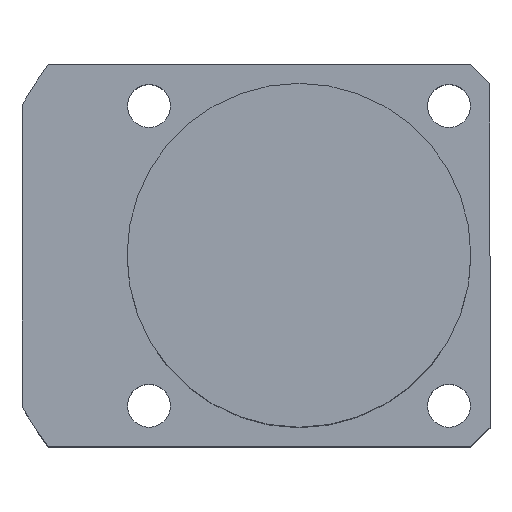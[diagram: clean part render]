
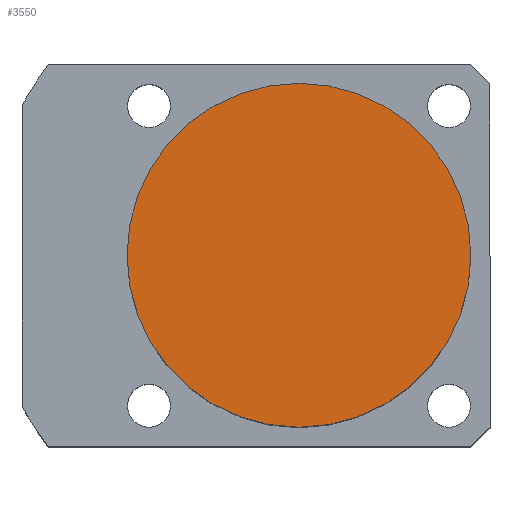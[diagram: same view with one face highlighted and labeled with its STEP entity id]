
A CAD part, top view. The second image highlights one B-rep face of the part: STEP entity #3550.
In plain terms, the highlighted planar face has unit normal (0, 0, 1).
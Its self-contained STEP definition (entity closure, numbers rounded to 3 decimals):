
#48 = CARTESIAN_POINT ( 'NONE',  ( 0., 0., 43.5 ) ) ;
#156 = CARTESIAN_POINT ( 'NONE',  ( 0., 0., 43.5 ) ) ;
#372 = DIRECTION ( 'NONE',  ( 1., 0., 0. ) ) ;
#408 = AXIS2_PLACEMENT_3D ( 'NONE', #156, #467, #2649 ) ;
#467 = DIRECTION ( 'NONE',  ( 0., 0., 1. ) ) ;
#592 = ORIENTED_EDGE ( 'NONE', *, *, #4031, .T. ) ;
#697 = CIRCLE ( 'NONE', #1351, 18. ) ;
#761 = PLANE ( 'NONE',  #408 ) ;
#1106 = FACE_OUTER_BOUND ( 'NONE', #1134, .T. ) ;
#1134 = EDGE_LOOP ( 'NONE', ( #592, #1235 ) ) ;
#1203 = CARTESIAN_POINT ( 'NONE',  ( 0., 0., 43.5 ) ) ;
#1235 = ORIENTED_EDGE ( 'NONE', *, *, #2452, .T. ) ;
#1351 = AXIS2_PLACEMENT_3D ( 'NONE', #1203, #3381, #1518 ) ;
#1387 = VERTEX_POINT ( 'NONE', #2827 ) ;
#1518 = DIRECTION ( 'NONE',  ( 1., 0., 0. ) ) ;
#2123 = VERTEX_POINT ( 'NONE', #3690 ) ;
#2224 = DIRECTION ( 'NONE',  ( 0., 0., 1. ) ) ;
#2452 = EDGE_CURVE ( 'NONE', #2123, #1387, #3887, .T. ) ;
#2649 = DIRECTION ( 'NONE',  ( 1., 0., 0. ) ) ;
#2827 = CARTESIAN_POINT ( 'NONE',  ( -18., 0., 43.5 ) ) ;
#3381 = DIRECTION ( 'NONE',  ( 0., 0., 1. ) ) ;
#3550 = ADVANCED_FACE ( 'NONE', ( #1106 ), #761, .T. ) ;
#3690 = CARTESIAN_POINT ( 'NONE',  ( 18., 0., 43.5 ) ) ;
#3804 = AXIS2_PLACEMENT_3D ( 'NONE', #48, #2224, #372 ) ;
#3887 = CIRCLE ( 'NONE', #3804, 18. ) ;
#4031 = EDGE_CURVE ( 'NONE', #1387, #2123, #697, .T. ) ;
